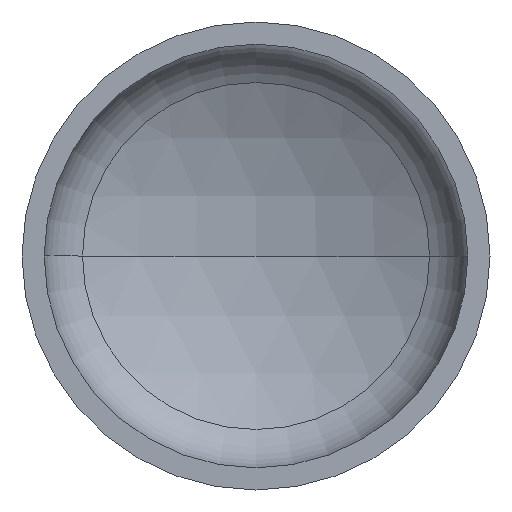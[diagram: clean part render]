
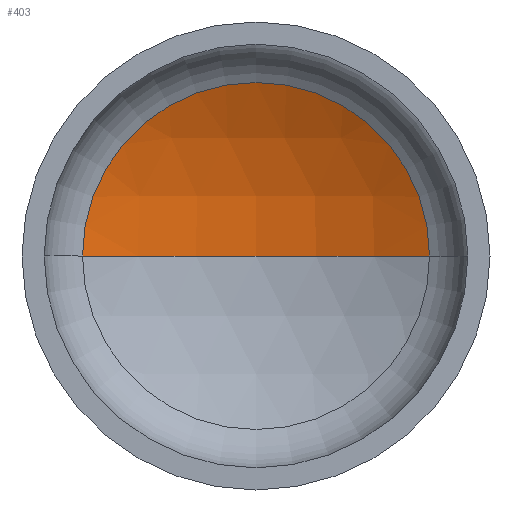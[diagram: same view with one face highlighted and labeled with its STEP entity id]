
A CAD part, front view. The second image highlights one B-rep face of the part: STEP entity #403.
In plain terms, the highlighted spherical face has radius 1520 mm.
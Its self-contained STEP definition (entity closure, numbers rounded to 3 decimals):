
#5 = ORIENTED_EDGE ( 'NONE', *, *, #148, .T. ) ;
#12 = AXIS2_PLACEMENT_3D ( 'NONE', #314, #237, #100 ) ;
#16 = EDGE_LOOP ( 'NONE', ( #56, #23, #5 ) ) ;
#23 = ORIENTED_EDGE ( 'NONE', *, *, #167, .T. ) ;
#36 = VERTEX_POINT ( 'NONE', #366 ) ;
#56 = ORIENTED_EDGE ( 'NONE', *, *, #339, .F. ) ;
#61 = AXIS2_PLACEMENT_3D ( 'NONE', #203, #205, #215 ) ;
#69 = AXIS2_PLACEMENT_3D ( 'NONE', #252, #251, #246 ) ;
#80 = VERTEX_POINT ( 'NONE', #223 ) ;
#100 = DIRECTION ( 'NONE',  ( 1., 0., 0. ) ) ;
#110 = VERTEX_POINT ( 'NONE', #234 ) ;
#148 = EDGE_CURVE ( 'NONE', #36, #80, #263, .T. ) ;
#167 = EDGE_CURVE ( 'NONE', #110, #36, #315, .T. ) ;
#175 = AXIS2_PLACEMENT_3D ( 'NONE', #375, #352, #206 ) ;
#203 = CARTESIAN_POINT ( 'NONE',  ( 0., 356.981, 0. ) ) ;
#205 = DIRECTION ( 'NONE',  ( 0., -1., 0. ) ) ;
#206 = DIRECTION ( 'NONE',  ( -1., 0., 0. ) ) ;
#207 = SPHERICAL_SURFACE ( 'NONE', #175, 1520. ) ;
#215 = DIRECTION ( 'NONE',  ( 1., 0., 0. ) ) ;
#223 = CARTESIAN_POINT ( 'NONE',  ( -704.39, 356.981, 0. ) ) ;
#232 = CIRCLE ( 'NONE', #12, 1520. ) ;
#234 = CARTESIAN_POINT ( 'NONE',  ( 0., 530.046, 0. ) ) ;
#237 = DIRECTION ( 'NONE',  ( 0., 0., 1. ) ) ;
#246 = DIRECTION ( 'NONE',  ( -1., 0., 0. ) ) ;
#251 = DIRECTION ( 'NONE',  ( 0., 0., -1. ) ) ;
#252 = CARTESIAN_POINT ( 'NONE',  ( 0., -989.954, 0. ) ) ;
#263 = CIRCLE ( 'NONE', #61, 704.39 ) ;
#314 = CARTESIAN_POINT ( 'NONE',  ( 0., -989.954, 0. ) ) ;
#315 = CIRCLE ( 'NONE', #69, 1520. ) ;
#321 = FACE_OUTER_BOUND ( 'NONE', #16, .T. ) ;
#339 = EDGE_CURVE ( 'NONE', #110, #80, #232, .T. ) ;
#352 = DIRECTION ( 'NONE',  ( 0., 0., -1. ) ) ;
#366 = CARTESIAN_POINT ( 'NONE',  ( 704.39, 356.981, 0. ) ) ;
#375 = CARTESIAN_POINT ( 'NONE',  ( 0., -989.954, 0. ) ) ;
#403 = ADVANCED_FACE ( 'NONE', ( #321 ), #207, .F. ) ;
